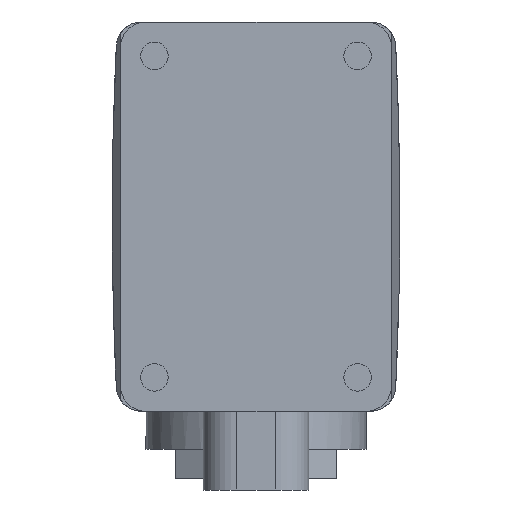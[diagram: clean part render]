
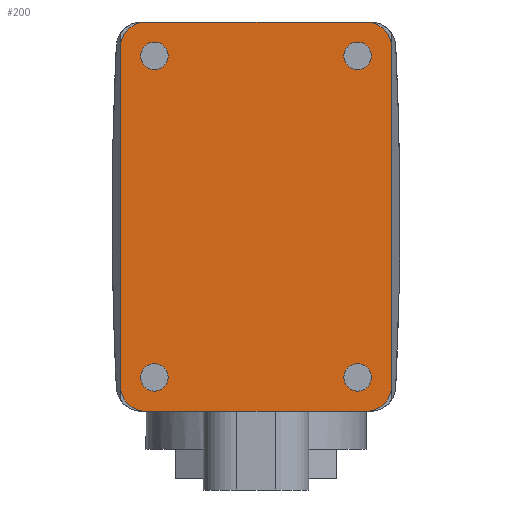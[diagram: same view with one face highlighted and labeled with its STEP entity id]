
A CAD part, front view. The second image highlights one B-rep face of the part: STEP entity #200.
In plain terms, the highlighted planar face has unit normal (0, -1, 0).
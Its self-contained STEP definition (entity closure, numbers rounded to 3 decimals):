
#200 = ADVANCED_FACE( '', ( #467, #468, #469, #470, #471 ), #472, .F. );
#467 = FACE_BOUND( '', #809, .T. );
#468 = FACE_BOUND( '', #810, .T. );
#469 = FACE_BOUND( '', #811, .T. );
#470 = FACE_BOUND( '', #812, .T. );
#471 = FACE_OUTER_BOUND( '', #813, .T. );
#472 = PLANE( '', #814 );
#809 = EDGE_LOOP( '', ( #1348 ) );
#810 = EDGE_LOOP( '', ( #1349 ) );
#811 = EDGE_LOOP( '', ( #1350 ) );
#812 = EDGE_LOOP( '', ( #1351 ) );
#813 = EDGE_LOOP( '', ( #1352, #1353, #1354, #1355, #1356, #1357, #1358, #1359 ) );
#814 = AXIS2_PLACEMENT_3D( '', #1360, #1361, #1362 );
#1348 = ORIENTED_EDGE( '', *, *, #2039, .T. );
#1349 = ORIENTED_EDGE( '', *, *, #1931, .T. );
#1350 = ORIENTED_EDGE( '', *, *, #1958, .T. );
#1351 = ORIENTED_EDGE( '', *, *, #1936, .T. );
#1352 = ORIENTED_EDGE( '', *, *, #2040, .F. );
#1353 = ORIENTED_EDGE( '', *, *, #2041, .F. );
#1354 = ORIENTED_EDGE( '', *, *, #1895, .F. );
#1355 = ORIENTED_EDGE( '', *, *, #2003, .F. );
#1356 = ORIENTED_EDGE( '', *, *, #1951, .F. );
#1357 = ORIENTED_EDGE( '', *, *, #2042, .F. );
#1358 = ORIENTED_EDGE( '', *, *, #2043, .F. );
#1359 = ORIENTED_EDGE( '', *, *, #1873, .F. );
#1360 = CARTESIAN_POINT( '', ( -13., -18., 20. ) );
#1361 = DIRECTION( '', ( 0., 1., 0. ) );
#1362 = DIRECTION( '', ( 0., 0., 1. ) );
#1873 = EDGE_CURVE( '', #2204, #2206, #2207, .T. );
#1895 = EDGE_CURVE( '', #2245, #2247, #2248, .T. );
#1931 = EDGE_CURVE( '', #2305, #2305, #2306, .T. );
#1936 = EDGE_CURVE( '', #2313, #2313, #2314, .T. );
#1951 = EDGE_CURVE( '', #2337, #2339, #2340, .T. );
#1958 = EDGE_CURVE( '', #2349, #2349, #2350, .T. );
#2003 = EDGE_CURVE( '', #2339, #2245, #2420, .T. );
#2039 = EDGE_CURVE( '', #2475, #2475, #2476, .T. );
#2040 = EDGE_CURVE( '', #2477, #2204, #2478, .T. );
#2041 = EDGE_CURVE( '', #2247, #2477, #2479, .T. );
#2042 = EDGE_CURVE( '', #2480, #2337, #2481, .T. );
#2043 = EDGE_CURVE( '', #2206, #2480, #2482, .T. );
#2204 = VERTEX_POINT( '', #2687 );
#2206 = VERTEX_POINT( '', #2690 );
#2207 = CIRCLE( '', #2691, 3. );
#2245 = VERTEX_POINT( '', #2754 );
#2247 = VERTEX_POINT( '', #2757 );
#2248 = LINE( '', #2758, #2759 );
#2305 = VERTEX_POINT( '', #2831 );
#2306 = CIRCLE( '', #2832, 1.62 );
#2313 = VERTEX_POINT( '', #2839 );
#2314 = CIRCLE( '', #2840, 1.62 );
#2337 = VERTEX_POINT( '', #2868 );
#2339 = VERTEX_POINT( '', #2871 );
#2340 = LINE( '', #2872, #2873 );
#2349 = VERTEX_POINT( '', #2884 );
#2350 = CIRCLE( '', #2885, 1.62 );
#2420 = CIRCLE( '', #2972, 3. );
#2475 = VERTEX_POINT( '', #3058 );
#2476 = CIRCLE( '', #3059, 1.62 );
#2477 = VERTEX_POINT( '', #3060 );
#2478 = LINE( '', #3061, #3062 );
#2479 = CIRCLE( '', #3063, 3. );
#2480 = VERTEX_POINT( '', #3064 );
#2481 = CIRCLE( '', #3065, 3. );
#2482 = LINE( '', #3066, #3067 );
#2687 = CARTESIAN_POINT( '', ( -16., -18., 20. ) );
#2690 = CARTESIAN_POINT( '', ( -13., -18., 23. ) );
#2691 = AXIS2_PLACEMENT_3D( '', #3359, #3360, #3361 );
#2754 = CARTESIAN_POINT( '', ( 13., -18., -23. ) );
#2757 = CARTESIAN_POINT( '', ( -13., -18., -23. ) );
#2758 = CARTESIAN_POINT( '', ( 13., -18., -23. ) );
#2759 = VECTOR( '', #3387, 1000. );
#2831 = CARTESIAN_POINT( '', ( -10.38, -18., -19. ) );
#2832 = AXIS2_PLACEMENT_3D( '', #3442, #3443, #3444 );
#2839 = CARTESIAN_POINT( '', ( 13.62, -18., -19. ) );
#2840 = AXIS2_PLACEMENT_3D( '', #3451, #3452, #3453 );
#2868 = CARTESIAN_POINT( '', ( 16., -18., 20. ) );
#2871 = CARTESIAN_POINT( '', ( 16., -18., -20. ) );
#2872 = CARTESIAN_POINT( '', ( 16., -18., 20. ) );
#2873 = VECTOR( '', #3478, 1000. );
#2884 = CARTESIAN_POINT( '', ( 13.62, -18., 19. ) );
#2885 = AXIS2_PLACEMENT_3D( '', #3487, #3488, #3489 );
#2972 = AXIS2_PLACEMENT_3D( '', #3552, #3553, #3554 );
#3058 = CARTESIAN_POINT( '', ( -10.38, -18., 19. ) );
#3059 = AXIS2_PLACEMENT_3D( '', #3605, #3606, #3607 );
#3060 = CARTESIAN_POINT( '', ( -16., -18., -20. ) );
#3061 = CARTESIAN_POINT( '', ( -16., -18., -20. ) );
#3062 = VECTOR( '', #3608, 1000. );
#3063 = AXIS2_PLACEMENT_3D( '', #3609, #3610, #3611 );
#3064 = CARTESIAN_POINT( '', ( 13., -18., 23. ) );
#3065 = AXIS2_PLACEMENT_3D( '', #3612, #3613, #3614 );
#3066 = CARTESIAN_POINT( '', ( -13., -18., 23. ) );
#3067 = VECTOR( '', #3615, 1000. );
#3359 = CARTESIAN_POINT( '', ( -13., -18., 20. ) );
#3360 = DIRECTION( '', ( 0., 1., 0. ) );
#3361 = DIRECTION( '', ( 1., 0., 0. ) );
#3387 = DIRECTION( '', ( -1., 0., 0. ) );
#3442 = CARTESIAN_POINT( '', ( -12., -18., -19. ) );
#3443 = DIRECTION( '', ( 0., 1., 0. ) );
#3444 = DIRECTION( '', ( 1., 0., 0. ) );
#3451 = CARTESIAN_POINT( '', ( 12., -18., -19. ) );
#3452 = DIRECTION( '', ( 0., 1., 0. ) );
#3453 = DIRECTION( '', ( 1., 0., 0. ) );
#3478 = DIRECTION( '', ( 0., 0., -1. ) );
#3487 = CARTESIAN_POINT( '', ( 12., -18., 19. ) );
#3488 = DIRECTION( '', ( 0., 1., 0. ) );
#3489 = DIRECTION( '', ( 1., 0., 0. ) );
#3552 = CARTESIAN_POINT( '', ( 13., -18., -20. ) );
#3553 = DIRECTION( '', ( 0., 1., 0. ) );
#3554 = DIRECTION( '', ( 1., 0., 0. ) );
#3605 = CARTESIAN_POINT( '', ( -12., -18., 19. ) );
#3606 = DIRECTION( '', ( 0., 1., 0. ) );
#3607 = DIRECTION( '', ( 1., 0., 0. ) );
#3608 = DIRECTION( '', ( 0., 0., 1. ) );
#3609 = CARTESIAN_POINT( '', ( -13., -18., -20. ) );
#3610 = DIRECTION( '', ( 0., 1., 0. ) );
#3611 = DIRECTION( '', ( 1., 0., 0. ) );
#3612 = CARTESIAN_POINT( '', ( 13., -18., 20. ) );
#3613 = DIRECTION( '', ( 0., 1., 0. ) );
#3614 = DIRECTION( '', ( 1., 0., 0. ) );
#3615 = DIRECTION( '', ( 1., 0., 0. ) );
